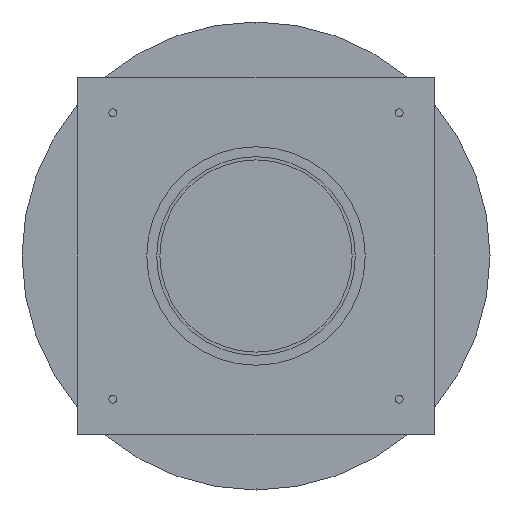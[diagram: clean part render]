
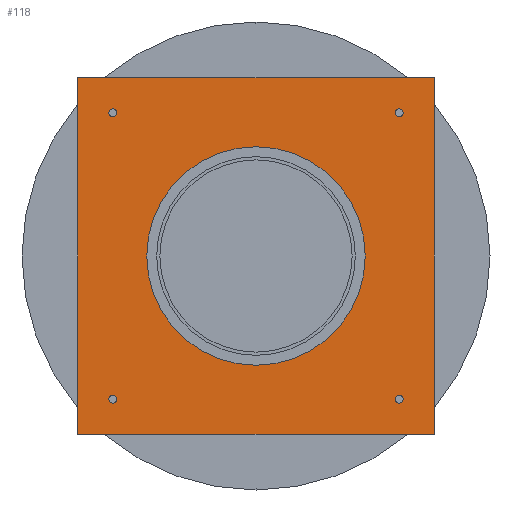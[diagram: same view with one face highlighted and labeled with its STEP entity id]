
A CAD part, front view. The second image highlights one B-rep face of the part: STEP entity #118.
In plain terms, the highlighted planar face has unit normal (0, -1, 0).
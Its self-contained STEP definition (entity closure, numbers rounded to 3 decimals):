
#118=ADVANCED_FACE('',(#216,#217,#218,#219,#220,#221),#222,.F.);
#216=FACE_OUTER_BOUND('',#327,.T.);
#217=FACE_BOUND('',#328,.T.);
#218=FACE_BOUND('',#329,.T.);
#219=FACE_BOUND('',#330,.T.);
#220=FACE_BOUND('',#331,.T.);
#221=FACE_BOUND('',#332,.T.);
#222=PLANE('',#333);
#327=EDGE_LOOP('',(#642,#643,#644,#645));
#328=EDGE_LOOP('',(#646,#647));
#329=EDGE_LOOP('',(#648,#649));
#330=EDGE_LOOP('',(#650,#651));
#331=EDGE_LOOP('',(#652,#653));
#332=EDGE_LOOP('',(#654,#655));
#333=AXIS2_PLACEMENT_3D('',#656,#657,#658);
#642=ORIENTED_EDGE('',*,*,#788,.T.);
#643=ORIENTED_EDGE('',*,*,#785,.F.);
#644=ORIENTED_EDGE('',*,*,#789,.F.);
#645=ORIENTED_EDGE('',*,*,#783,.F.);
#646=ORIENTED_EDGE('',*,*,#742,.T.);
#647=ORIENTED_EDGE('',*,*,#758,.T.);
#648=ORIENTED_EDGE('',*,*,#772,.T.);
#649=ORIENTED_EDGE('',*,*,#711,.T.);
#650=ORIENTED_EDGE('',*,*,#774,.T.);
#651=ORIENTED_EDGE('',*,*,#707,.T.);
#652=ORIENTED_EDGE('',*,*,#776,.T.);
#653=ORIENTED_EDGE('',*,*,#703,.T.);
#654=ORIENTED_EDGE('',*,*,#778,.T.);
#655=ORIENTED_EDGE('',*,*,#699,.T.);
#656=CARTESIAN_POINT('',(0.0,0.0,0.0));
#657=DIRECTION('',(-0.0,1.0,0.0));
#658=DIRECTION('',(1.0,0.0,0.0));
#699=EDGE_CURVE('',#803,#807,#809,.T.);
#703=EDGE_CURVE('',#811,#815,#817,.T.);
#707=EDGE_CURVE('',#819,#823,#825,.T.);
#711=EDGE_CURVE('',#827,#831,#833,.T.);
#742=EDGE_CURVE('',#892,#889,#893,.T.);
#758=EDGE_CURVE('',#889,#892,#918,.T.);
#772=EDGE_CURVE('',#831,#827,#932,.T.);
#774=EDGE_CURVE('',#823,#819,#934,.T.);
#776=EDGE_CURVE('',#815,#811,#936,.T.);
#778=EDGE_CURVE('',#807,#803,#938,.T.);
#783=EDGE_CURVE('',#945,#940,#947,.T.);
#785=EDGE_CURVE('',#949,#951,#952,.T.);
#788=EDGE_CURVE('',#945,#951,#956,.T.);
#789=EDGE_CURVE('',#940,#949,#957,.T.);
#803=VERTEX_POINT('',#971);
#807=VERTEX_POINT('',#976);
#809=CIRCLE('',#979,6.0);
#811=VERTEX_POINT('',#981);
#815=VERTEX_POINT('',#986);
#817=CIRCLE('',#989,6.0);
#819=VERTEX_POINT('',#991);
#823=VERTEX_POINT('',#996);
#825=CIRCLE('',#999,6.0);
#827=VERTEX_POINT('',#1001);
#831=VERTEX_POINT('',#1006);
#833=CIRCLE('',#1009,6.0);
#889=VERTEX_POINT('',#1077);
#892=VERTEX_POINT('',#1081);
#893=CIRCLE('',#1082,171.6);
#918=CIRCLE('',#1112,171.6);
#932=CIRCLE('',#1126,6.0);
#934=CIRCLE('',#1128,6.0);
#936=CIRCLE('',#1130,6.0);
#938=CIRCLE('',#1132,6.0);
#940=VERTEX_POINT('',#1134);
#945=VERTEX_POINT('',#1141);
#947=LINE('',#1144,#1145);
#949=VERTEX_POINT('',#1147);
#951=VERTEX_POINT('',#1150);
#952=LINE('',#1151,#1152);
#956=LINE('',#1158,#1159);
#957=LINE('',#1160,#1161);
#971=CARTESIAN_POINT('',(-219.0,0.0,-225.0));
#976=CARTESIAN_POINT('',(-231.0,0.0,-225.0));
#979=AXIS2_PLACEMENT_3D('',#1189,#1190,#1191);
#981=CARTESIAN_POINT('',(231.0,0.0,-225.0));
#986=CARTESIAN_POINT('',(219.0,0.0,-225.0));
#989=AXIS2_PLACEMENT_3D('',#1197,#1198,#1199);
#991=CARTESIAN_POINT('',(-219.0,0.0,225.0));
#996=CARTESIAN_POINT('',(-231.0,0.0,225.0));
#999=AXIS2_PLACEMENT_3D('',#1205,#1206,#1207);
#1001=CARTESIAN_POINT('',(231.0,0.0,225.0));
#1006=CARTESIAN_POINT('',(219.0,0.0,225.0));
#1009=AXIS2_PLACEMENT_3D('',#1213,#1214,#1215);
#1077=CARTESIAN_POINT('',(171.6,0.0,0.));
#1081=CARTESIAN_POINT('',(-171.6,0.0,0.));
#1082=AXIS2_PLACEMENT_3D('',#1280,#1281,#1282);
#1112=AXIS2_PLACEMENT_3D('',#1318,#1319,#1320);
#1126=AXIS2_PLACEMENT_3D('',#1360,#1361,#1362);
#1128=AXIS2_PLACEMENT_3D('',#1366,#1367,#1368);
#1130=AXIS2_PLACEMENT_3D('',#1372,#1373,#1374);
#1132=AXIS2_PLACEMENT_3D('',#1378,#1379,#1380);
#1134=CARTESIAN_POINT('',(280.0,0.0,280.0));
#1141=CARTESIAN_POINT('',(-280.0,0.0,280.0));
#1144=CARTESIAN_POINT('',(0.0,0.0,280.0));
#1145=VECTOR('',#1387,1.0);
#1147=CARTESIAN_POINT('',(280.0,0.0,-280.0));
#1150=CARTESIAN_POINT('',(-280.0,0.0,-280.0));
#1151=CARTESIAN_POINT('',(0.0,0.0,-280.0));
#1152=VECTOR('',#1389,1.0);
#1158=CARTESIAN_POINT('',(-280.0,0.0,0.0));
#1159=VECTOR('',#1392,1.0);
#1160=CARTESIAN_POINT('',(280.0,0.0,0.0));
#1161=VECTOR('',#1393,1.0);
#1189=CARTESIAN_POINT('',(-225.0,0.0,-225.0));
#1190=DIRECTION('',(-0.0,1.0,0.0));
#1191=DIRECTION('',(1.0,0.0,0.0));
#1197=CARTESIAN_POINT('',(225.0,0.0,-225.0));
#1198=DIRECTION('',(-0.0,1.0,0.0));
#1199=DIRECTION('',(1.0,0.0,0.0));
#1205=CARTESIAN_POINT('',(-225.0,0.0,225.0));
#1206=DIRECTION('',(-0.0,1.0,0.0));
#1207=DIRECTION('',(1.0,0.0,0.0));
#1213=CARTESIAN_POINT('',(225.0,0.0,225.0));
#1214=DIRECTION('',(-0.0,1.0,0.0));
#1215=DIRECTION('',(1.0,0.0,0.0));
#1280=CARTESIAN_POINT('',(0.0,0.0,0.0));
#1281=DIRECTION('',(-0.0,1.0,0.0));
#1282=DIRECTION('',(1.0,0.0,0.0));
#1318=CARTESIAN_POINT('',(0.0,0.0,0.0));
#1319=DIRECTION('',(-0.0,1.0,0.0));
#1320=DIRECTION('',(1.0,0.0,0.0));
#1360=CARTESIAN_POINT('',(225.0,0.0,225.0));
#1361=DIRECTION('',(-0.0,1.0,0.0));
#1362=DIRECTION('',(1.0,0.0,0.0));
#1366=CARTESIAN_POINT('',(-225.0,0.0,225.0));
#1367=DIRECTION('',(-0.0,1.0,0.0));
#1368=DIRECTION('',(1.0,0.0,0.0));
#1372=CARTESIAN_POINT('',(225.0,0.0,-225.0));
#1373=DIRECTION('',(-0.0,1.0,0.0));
#1374=DIRECTION('',(1.0,0.0,0.0));
#1378=CARTESIAN_POINT('',(-225.0,0.0,-225.0));
#1379=DIRECTION('',(-0.0,1.0,0.0));
#1380=DIRECTION('',(1.0,0.0,0.0));
#1387=DIRECTION('',(1.0,0.0,0.0));
#1389=DIRECTION('',(-1.0,0.0,0.0));
#1392=DIRECTION('',(0.0,0.0,-1.0));
#1393=DIRECTION('',(0.0,0.0,-1.0));
